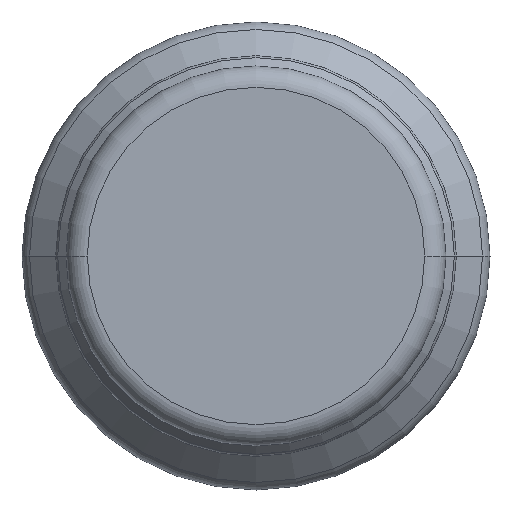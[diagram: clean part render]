
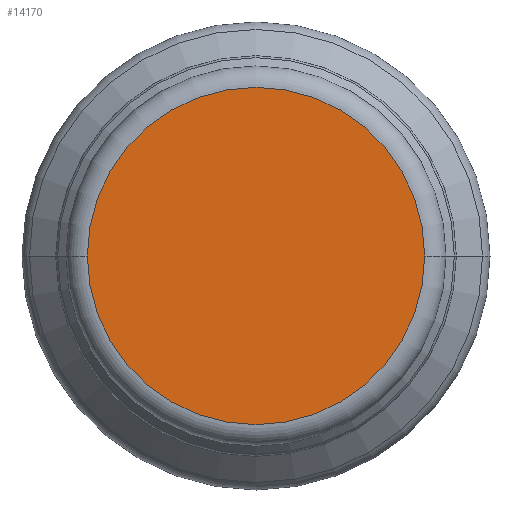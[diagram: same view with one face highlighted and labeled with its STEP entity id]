
A CAD part, left-side view. The second image highlights one B-rep face of the part: STEP entity #14170.
In plain terms, the highlighted planar face has unit normal (-1, 0, 0).
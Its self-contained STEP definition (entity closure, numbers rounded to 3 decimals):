
#13970=CARTESIAN_POINT('',(-36.,29.329,31.803));
#13980=DIRECTION('',(-1.,0.,0.));
#13990=DIRECTION('',(0.,-1.,0.));
#14000=AXIS2_PLACEMENT_3D('',#13970,#13980,#13990);
#14010=PLANE('',#14000);
#14020=CARTESIAN_POINT('',(-36.,0.,0.));
#14030=DIRECTION('',(1.,0.,0.));
#14040=DIRECTION('',(0.,-1.,0.));
#14050=AXIS2_PLACEMENT_3D('',#14020,#14030,#14040);
#14060=CIRCLE('',#14050,39.45);
#14070=CARTESIAN_POINT('',(-36.,39.45,0.));
#14080=VERTEX_POINT('',#14070);
#14090=CARTESIAN_POINT('',(-36.,-39.45,0.));
#14100=VERTEX_POINT('',#14090);
#14110=EDGE_CURVE('',#14080,#14100,#14060,.T.);
#14120=ORIENTED_EDGE('',*,*,#14110,.F.);
#14130=EDGE_CURVE('',#14100,#14080,#14060,.T.);
#14140=ORIENTED_EDGE('',*,*,#14130,.F.);
#14150=EDGE_LOOP('',(#14140,#14120));
#14160=FACE_OUTER_BOUND('',#14150,.T.);
#14170=ADVANCED_FACE('',(#14160),#14010,.T.);
